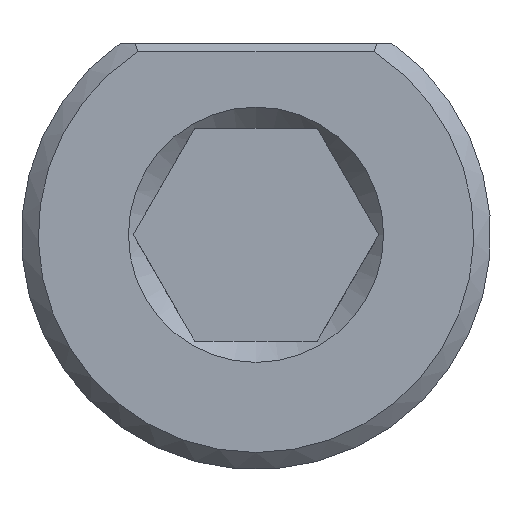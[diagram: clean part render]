
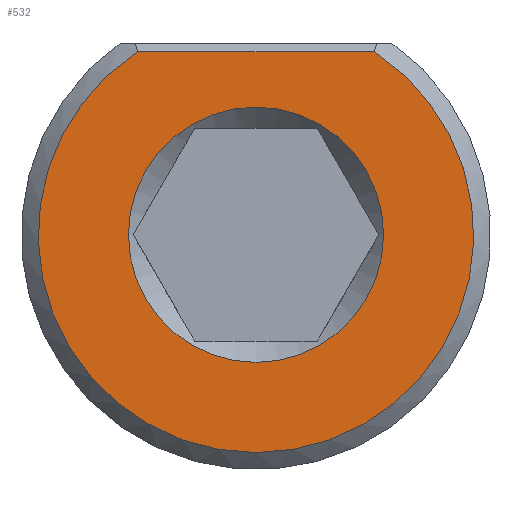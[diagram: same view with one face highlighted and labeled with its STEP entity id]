
A CAD part, front view. The second image highlights one B-rep face of the part: STEP entity #532.
In plain terms, the highlighted planar face has unit normal (0, -1, 0).
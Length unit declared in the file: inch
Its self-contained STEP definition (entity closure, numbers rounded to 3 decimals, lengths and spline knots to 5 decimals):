
#46=PLANE('',#592);
#59=FACE_BOUND('',#115,.T.);
#82=FACE_OUTER_BOUND('',#114,.T.);
#114=EDGE_LOOP('',(#420,#421));
#115=EDGE_LOOP('',(#422));
#145=LINE('',#891,#175);
#175=VECTOR('',#686,0.3937);
#206=CIRCLE('',#590,0.256);
#208=CIRCLE('',#593,0.15);
#244=VERTEX_POINT('',#886);
#245=VERTEX_POINT('',#890);
#246=VERTEX_POINT('',#899);
#309=EDGE_CURVE('',#244,#245,#145,.T.);
#311=EDGE_CURVE('',#245,#244,#206,.T.);
#313=EDGE_CURVE('',#246,#246,#208,.T.);
#420=ORIENTED_EDGE('',*,*,#309,.F.);
#421=ORIENTED_EDGE('',*,*,#311,.F.);
#422=ORIENTED_EDGE('',*,*,#313,.F.);
#532=ADVANCED_FACE('',(#82,#59),#46,.T.);
#590=AXIS2_PLACEMENT_3D('',#896,#689,#690);
#592=AXIS2_PLACEMENT_3D('',#898,#693,#694);
#593=AXIS2_PLACEMENT_3D('',#900,#695,#696);
#686=DIRECTION('',(1.,0.,0.));
#689=DIRECTION('center_axis',(0.,1.,0.));
#690=DIRECTION('ref_axis',(0.,0.,1.));
#693=DIRECTION('center_axis',(0.,-1.,0.));
#694=DIRECTION('ref_axis',(0.,0.,-1.));
#695=DIRECTION('center_axis',(0.,-1.,0.));
#696=DIRECTION('ref_axis',(0.,0.,1.));
#886=CARTESIAN_POINT('',(-0.13896,0.,0.215));
#890=CARTESIAN_POINT('',(0.13896,0.,0.215));
#891=CARTESIAN_POINT('',(0.13717,0.,0.215));
#896=CARTESIAN_POINT('Origin',(0.,0.,0.));
#898=CARTESIAN_POINT('Origin',(0.,0.,-0.125));
#899=CARTESIAN_POINT('',(0.,0.,-0.15));
#900=CARTESIAN_POINT('Origin',(0.,0.,0.));
